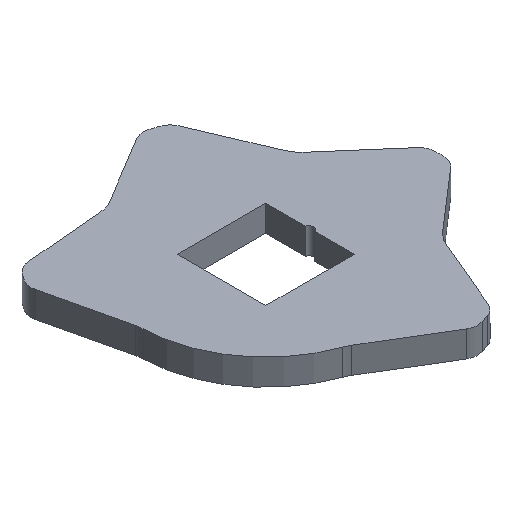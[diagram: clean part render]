
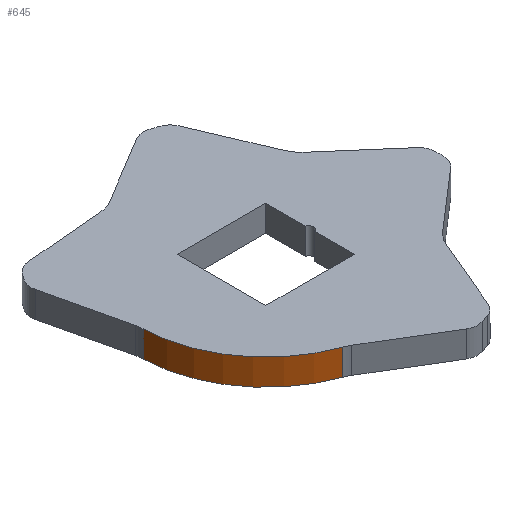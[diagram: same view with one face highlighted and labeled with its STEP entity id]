
A CAD part, isometric view. The second image highlights one B-rep face of the part: STEP entity #645.
In plain terms, the highlighted cylindrical face has radius 14.5 mm (diameter 29 mm), a partial arc.
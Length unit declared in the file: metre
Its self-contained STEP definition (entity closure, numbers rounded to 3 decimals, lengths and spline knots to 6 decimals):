
#38=CIRCLE('',#719,0.0145);
#39=CIRCLE('',#720,0.0145);
#63=CYLINDRICAL_SURFACE('',#718,0.0145);
#153=ORIENTED_EDGE('',*,*,#326,.F.);
#154=ORIENTED_EDGE('',*,*,#325,.F.);
#155=ORIENTED_EDGE('',*,*,#327,.T.);
#156=ORIENTED_EDGE('',*,*,#328,.T.);
#325=EDGE_CURVE('',#402,#401,#459,.T.);
#326=EDGE_CURVE('',#401,#403,#38,.T.);
#327=EDGE_CURVE('',#402,#404,#39,.T.);
#328=EDGE_CURVE('',#404,#403,#460,.T.);
#401=VERTEX_POINT('',#1076);
#402=VERTEX_POINT('',#1078);
#403=VERTEX_POINT('',#1082);
#404=VERTEX_POINT('',#1084);
#459=LINE('',#1079,#517);
#460=LINE('',#1085,#518);
#517=VECTOR('',#877,1.);
#518=VECTOR('',#884,1.);
#558=EDGE_LOOP('',(#153,#154,#155,#156));
#594=FACE_BOUND('',#558,.T.);
#645=ADVANCED_FACE('',(#594),#63,.T.);
#718=AXIS2_PLACEMENT_3D('',#1080,#878,#879);
#719=AXIS2_PLACEMENT_3D('',#1081,#880,#881);
#720=AXIS2_PLACEMENT_3D('',#1083,#882,#883);
#877=DIRECTION('',(0.,0.,1.));
#878=DIRECTION('',(0.,0.,1.));
#879=DIRECTION('',(1.,0.,0.));
#880=DIRECTION('',(0.,0.,1.));
#881=DIRECTION('',(1.,0.,0.));
#882=DIRECTION('',(0.,0.,1.));
#883=DIRECTION('',(1.,0.,0.));
#884=DIRECTION('',(0.,0.,1.));
#1076=CARTESIAN_POINT('',(-0.014495,-0.000381,-0.010128));
#1078=CARTESIAN_POINT('',(-0.014495,-0.000381,-0.013128));
#1079=CARTESIAN_POINT('',(-0.014495,-0.000381,-0.013128));
#1080=CARTESIAN_POINT('',(0.,0.,-0.013128));
#1081=CARTESIAN_POINT('',(0.,0.,-0.010128));
#1082=CARTESIAN_POINT('',(-0.004841,-0.013668,-0.010128));
#1083=CARTESIAN_POINT('',(0.,0.,-0.013128));
#1084=CARTESIAN_POINT('',(-0.004841,-0.013668,-0.013128));
#1085=CARTESIAN_POINT('',(-0.004841,-0.013668,-0.013128));
